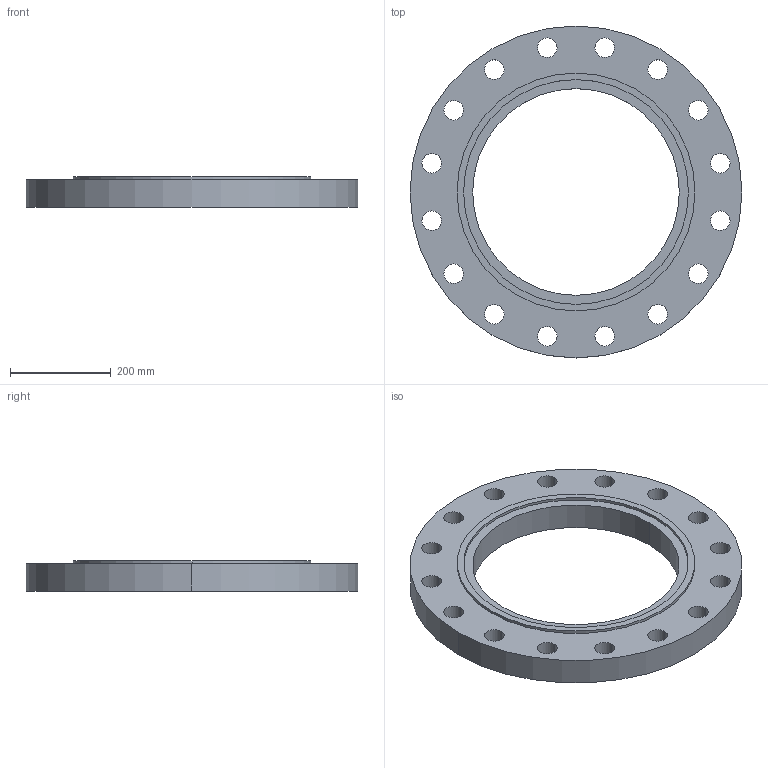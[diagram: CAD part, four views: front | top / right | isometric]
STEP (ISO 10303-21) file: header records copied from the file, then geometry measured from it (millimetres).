
FILE_DESCRIPTION (( 'STEP AP214' ), '1' );
FILE_NAME ('PN40 DN400 Type 01 - Type C Face.STEP', '2019-01-05T23:25:16', ( '' ), ( '' ), 'SwSTEP 2.0', 'SolidWorks 2019', '' );
FILE_SCHEMA (( 'AUTOMOTIVE_DESIGN' ));
Length unit declared in the file: millimetre
Products named in the file (1): PN40 DN400 Type 01 - Type C Face
Bounding box: 660 x 660 x 60 mm (x, y, z)
Volume: 10476625.2 mm3; surface area: 686780.4 mm2
Topology: 1 solids, 1 shells, 44 faces, 120 edges, 80 vertices
Faces by surface type: cylinder 40, plane 4
Entity records: 1546 total; most frequent: DIRECTION 290, CARTESIAN_POINT 245, ORIENTED_EDGE 240, AXIS2_PLACEMENT_3D 125, EDGE_CURVE 120, CIRCLE 80, VERTEX_POINT 80, EDGE_LOOP 80
